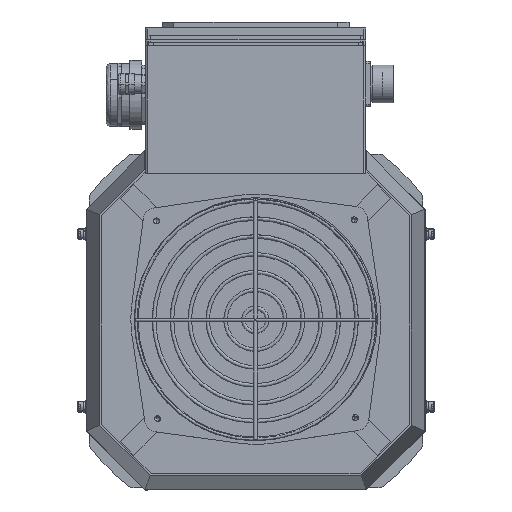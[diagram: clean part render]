
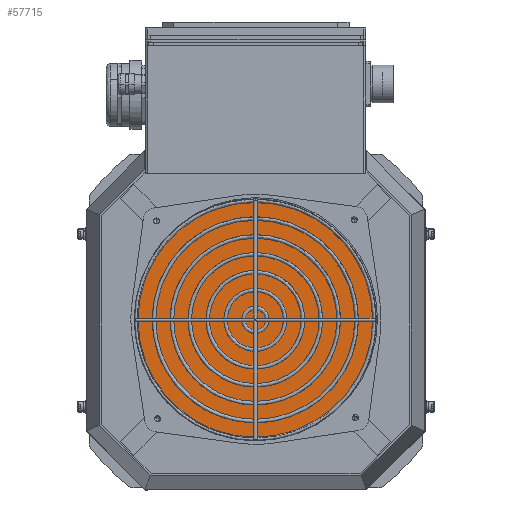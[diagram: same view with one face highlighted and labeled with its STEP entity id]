
A CAD part, top view. The second image highlights one B-rep face of the part: STEP entity #57715.
In plain terms, the highlighted planar face has unit normal (0, 0, 1).
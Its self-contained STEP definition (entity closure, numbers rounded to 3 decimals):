
#462 = DIRECTION ( 'NONE',  ( 0., 0., 1. ) ) ;
#2939 = EDGE_CURVE ( 'NONE', #42103, #43162, #32492, .T. ) ;
#3423 = CARTESIAN_POINT ( 'NONE',  ( 0., -126., 350. ) ) ;
#3692 = DIRECTION ( 'NONE',  ( 0., -1., 0. ) ) ;
#9290 = DIRECTION ( 'NONE',  ( -1., 0., 0. ) ) ;
#11356 = AXIS2_PLACEMENT_3D ( 'NONE', #13264, #34084, #3692 ) ;
#12141 = FACE_OUTER_BOUND ( 'NONE', #43897, .T. ) ;
#13264 = CARTESIAN_POINT ( 'NONE',  ( 0., 0., 350. ) ) ;
#20953 = CARTESIAN_POINT ( 'NONE',  ( 0., 0., 350. ) ) ;
#23006 = CARTESIAN_POINT ( 'NONE',  ( 0., 126., 350. ) ) ;
#29520 = DIRECTION ( 'NONE',  ( 0., 0., 1. ) ) ;
#32492 = CIRCLE ( 'NONE', #50631, 126. ) ;
#34084 = DIRECTION ( 'NONE',  ( 0., 0., 1. ) ) ;
#40913 = CIRCLE ( 'NONE', #11356, 126. ) ;
#42103 = VERTEX_POINT ( 'NONE', #3423 ) ;
#43162 = VERTEX_POINT ( 'NONE', #23006 ) ;
#43897 = EDGE_LOOP ( 'NONE', ( #51853, #63258 ) ) ;
#50631 = AXIS2_PLACEMENT_3D ( 'NONE', #20953, #462, #61275 ) ;
#51853 = ORIENTED_EDGE ( 'NONE', *, *, #2939, .T. ) ;
#54763 = CARTESIAN_POINT ( 'NONE',  ( 127.512, 127.512, 350. ) ) ;
#57715 = ADVANCED_FACE ( 'NONE', ( #12141 ), #59851, .T. ) ;
#59851 = PLANE ( 'NONE',  #63867 ) ;
#61275 = DIRECTION ( 'NONE',  ( 0., -1., 0. ) ) ;
#62540 = EDGE_CURVE ( 'NONE', #43162, #42103, #40913, .T. ) ;
#63258 = ORIENTED_EDGE ( 'NONE', *, *, #62540, .T. ) ;
#63867 = AXIS2_PLACEMENT_3D ( 'NONE', #54763, #29520, #9290 ) ;
